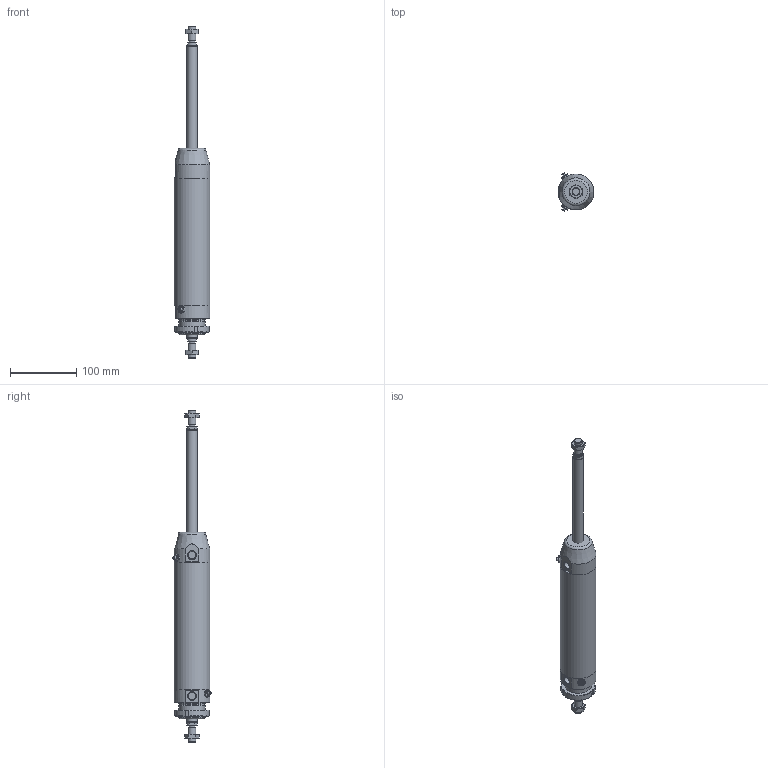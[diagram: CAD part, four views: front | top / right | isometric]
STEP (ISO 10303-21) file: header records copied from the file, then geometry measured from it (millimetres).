
FILE_DESCRIPTION(/* description */ (''),/* implementation_level */ '2;1');
FILE_NAME(/* name */ 'I:\Area Tecnica\Documenti\A-Manieri\_Inventor\12X\12X#T_###_####_#_#\12XDT_050_0150_#_#.stp',/* time_stamp */ '2015-05-13T09:09:02+02:00',/* author */ ('maniean1'),/* organization */ ('Pneumax S.p.A.'),/* preprocessor_version */ 'ST-DEVELOPER v15.2',/* originating_system */ 'Autodesk Inventor 2014',/* authorisation */ '');
FILE_SCHEMA (('AUTOMOTIVE_DESIGN { 1 0 10303 214 3 1 1 }'));
Length unit declared in the file: millimetre
Products named in the file (7): C1250_619-0150; 12X50_606; SP12X50_0150; 12X_50_11; 12X50_614; G12X_050_05; 12XDT_050_0150_#_#
Bounding box: 54 x 57.75 x 502 mm (x, y, z)
Volume: 393795.4 mm3; surface area: 128806.8 mm2
Topology: 7 solids, 7 shells, 125 faces, 280 edges, 180 vertices
Faces by surface type: plane 66, cylinder 30, cone 26, torus 3
Full cylindrical faces by diameter (mm): 5 x2, 10.2 x2, 11 x2, 11.4 x2, 12 x4, 14 x2, 15.6 x2, 16 x2, 38.2 x1, 40 x3, 50 x2, 54 x3
Entity records: 3058 total; most frequent: CARTESIAN_POINT 614, DIRECTION 513, ORIENTED_EDGE 402, AXIS2_PLACEMENT_3D 219, EDGE_CURVE 201, EDGE_LOOP 178, VERTEX_POINT 153, ADVANCED_FACE 114
